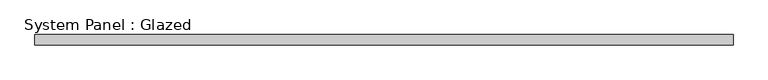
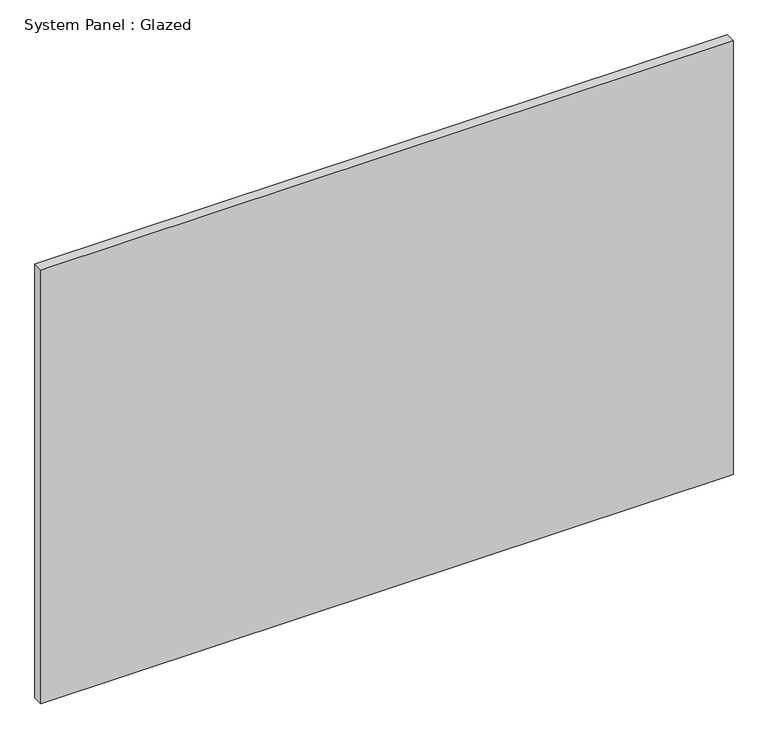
"""IFC4 building model written with IfcOpenShell, lengths in millimetres: plate geometry, System Panel : Glazed."""

from ifc_helpers import new_model, si_unit, origin, origin_with_axes, place, context, project, spatial, polyline, outline, extrude, source, transform, mapped, element, save


def system_panel_glazed_379c68fb(model_context):
    return source(origin(), model_context, "Body", "SweptSolid", [
        extrude(outline(polyline([(847.725, -44.45), (-847.725, -44.45), (-847.725, -19.05), (847.725, -19.05), (847.725, -44.45)])), origin_with_axes(), (0.0, 0.0, 1.0), 1123.95),
    ])


if __name__ == "__main__":
    model = new_model("IFC4")
    model_context = context("Model", 3, world=origin())
    ifc_project = project(units=[si_unit("LENGTHUNIT", "METRE", prefix="MILLI")], contexts=[model_context])
    site = spatial("IfcSite", under=ifc_project)
    building = spatial("IfcBuilding", under=site)
    placement = place(None, origin())
    system_panel_glazed_shape = system_panel_glazed_379c68fb(model_context)
    element("IfcPlate", 1, ObjectType="System Panel : Glazed", at=placement, inside=building, context=model_context, shape_type="MappedRepresentation", body=[
        mapped(system_panel_glazed_shape, transform((0.0, 0.0, 0.0), x_axis=(1.0, 0.0, 0.0), y_axis=(0.0, 1.0, 0.0), z_axis=(0.0, 0.0, 1.0))),
    ])
    save(model, "model.ifc")
